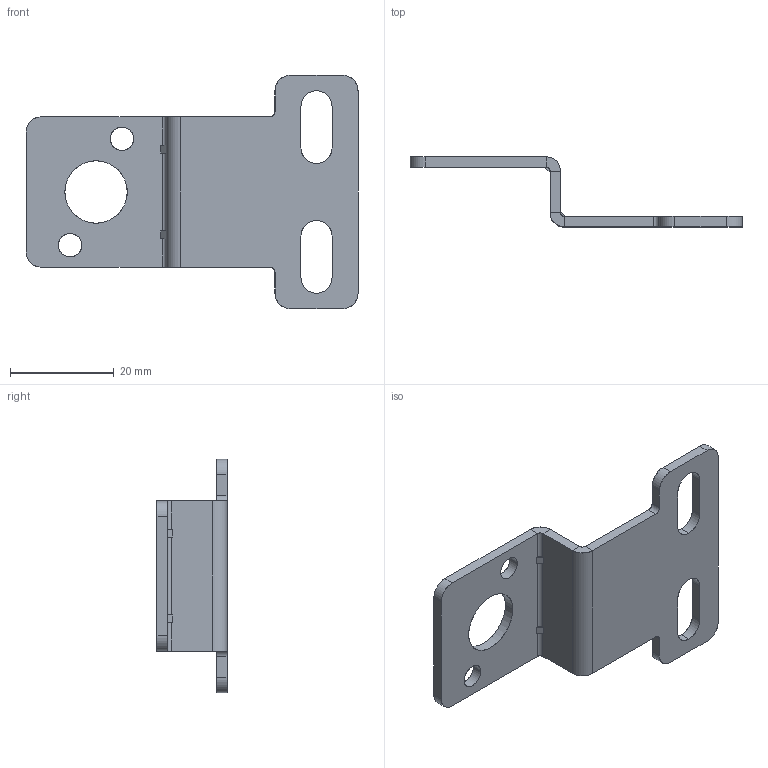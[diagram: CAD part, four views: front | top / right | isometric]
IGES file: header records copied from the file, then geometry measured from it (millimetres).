
Start section: SolidWorks IGES file using analytic representation for surfaces
Global section: file name: C:\Documents and Settings\Administrator\桌面\ZGFR500CMB.IGS,1; native system: 5HSolidWorks 2012; preprocessor: SolidWorks 2012; author: Administrator; date: 140703.152631; units: millimetre
Bounding box: 64 x 13.5 x 45 mm (x, y, z)
Surface area: 4919 mm2 (no closed solid volume)
Topology: 0 solids, 0 shells, 66 faces, 1000 edges, 1176 vertices
Faces by surface type: bspline 38, revolution 28
